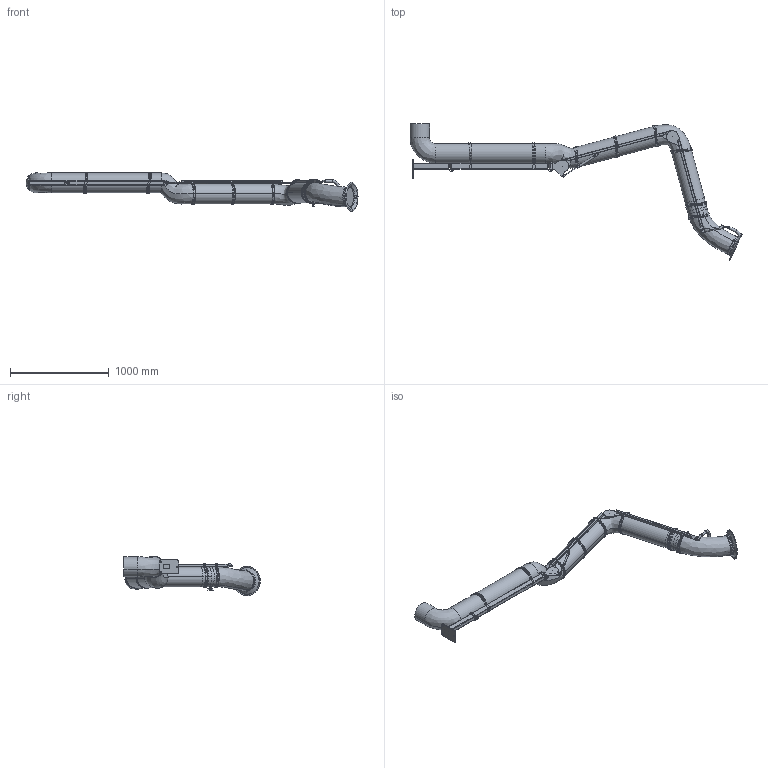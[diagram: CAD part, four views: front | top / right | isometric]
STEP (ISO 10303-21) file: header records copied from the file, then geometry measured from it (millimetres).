
FILE_DESCRIPTION((''),'2;1');
FILE_NAME('PSR_4000-200_D_EXD','2022-10-04T13:34:05',('Tomas Bellgran'),(''),'CREO PARAMETRIC BY PTC INC, 2018260','CREO PARAMETRIC BY PTC INC, 2018260','');
FILE_SCHEMA(('AUTOMOTIVE_DESIGN { 1 0 10303 214 1 1 1 1 }'));
Products named in the file (43): 141558; 141580; 141581; 122701; 141514; 141560; 141582; 141587; 141524; 121391; 131150_LIGHT; 139383_LIGHT; 131151_LIGHT; 131173_LIGHT; 144356; 141589; 134343_AF0; G_P136_WELD-REF; 141590; 120626; 122750_LIGHT; 122717_LIGHT; 120127_COMPL_LIGHT; 130317; ROD_STAB_8-160-REF; 131095; 130322_AF25; 131145; 131208; 122291; 122295; 131218; 131219; 131223; 131203; 147067_EXD; 121084; 124460; 107526-11; 117586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
Assembly tree (61 placements, depth 4):
  PSR_4000-200_D_EXD
    141514
      141558
      141580
      141581
      122701
    141524
      141560
      141582
      141587
    121391  x4
    131150_LIGHT
    131173_LIGHT
      139383_LIGHT
      131151_LIGHT
    144356  x2
    141590
      141589
      134343_AF0
      G_P136_WELD-REF
    120626
    122750_LIGHT
    122717_LIGHT
    120127_COMPL_LIGHT  x2
    130322_AF25
      130317
      ROD_STAB_8-160-REF
      131095  x2
    131145  x2
    131203
      131208
      122295
        122291
      131223
        131218
        131219
    147067_EXD
    121084
    124460  x6
    107526-11  x6
    131138  x2
      117586
    107526-10  x2
Bounding box: 3356.96 x 1379.34 x 399.78 mm (x, y, z)
Volume: 139913113.6 mm3; surface area: 4095806.1 mm2
Topology: 52 solids, 52 shells, 1425 faces, 3393 edges, 2078 vertices
Faces by surface type: plane 580, cylinder 412, bspline 330, cone 48, extrusion 20, torus 18, revolution 13, sphere 4
Entity records: 52661 total; most frequent: CARTESIAN_POINT 20912, DIRECTION 3988, ORIENTED_EDGE 3924, PRESENTATION_STYLE_ASSIGNMENT 2616, STYLED_ITEM 2593, CURVE_STYLE 1985, EDGE_CURVE 1962, AXIS2_PLACEMENT_3D 1506
